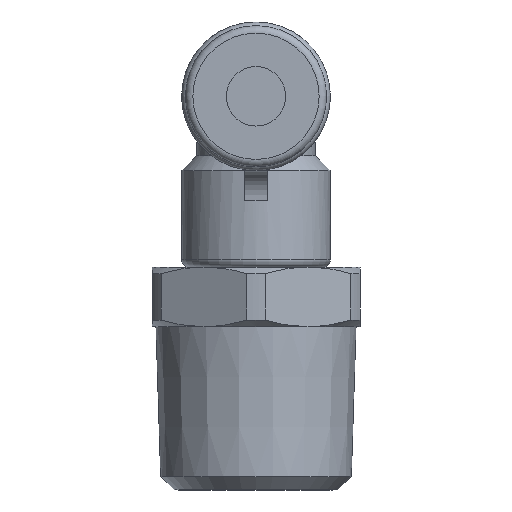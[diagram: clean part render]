
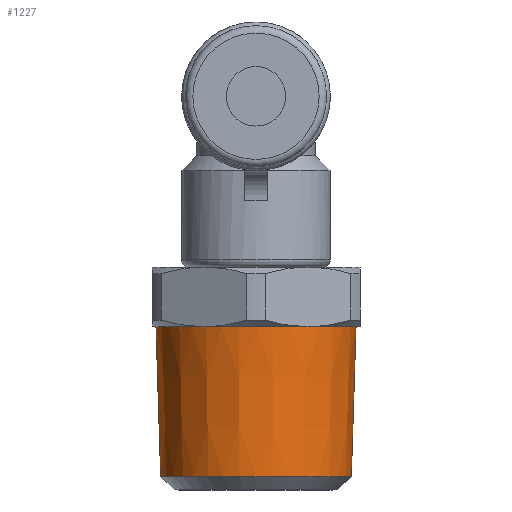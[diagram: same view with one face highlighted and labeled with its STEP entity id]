
A CAD part, left-side view. The second image highlights one B-rep face of the part: STEP entity #1227.
In plain terms, the highlighted conical face has half-angle 1.79 degrees and reference radius 6.579 mm.
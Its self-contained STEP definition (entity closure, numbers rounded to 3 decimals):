
#54=FACE_BOUND($,#354,.T.);
#258=FACE_OUTER_BOUND($,#353,.T.);
#353=EDGE_LOOP($,(#977));
#354=EDGE_LOOP($,(#978));
#450=CIRCLE($,#1348,6.419);
#455=CIRCLE($,#1362,6.735);
#587=VERTEX_POINT($,#2097);
#597=VERTEX_POINT($,#2156);
#726=EDGE_CURVE($,#587,#587,#450,.T.);
#741=EDGE_CURVE($,#597,#597,#455,.F.);
#977=ORIENTED_EDGE($,*,*,#741,.F.);
#978=ORIENTED_EDGE($,*,*,#726,.F.);
#1176=CONICAL_SURFACE($,#1361,6.579,1.79);
#1227=ADVANCED_FACE($,(#258,#54),#1176,.T.);
#1348=AXIS2_PLACEMENT_3D($,#2098,#1620,#1621);
#1361=AXIS2_PLACEMENT_3D($,#2155,#1648,#1649);
#1362=AXIS2_PLACEMENT_3D($,#2157,#1650,#1651);
#1620=DIRECTION('center_axis',(0.,0.,
-1.));
#1621=DIRECTION('ref_axis',(1.,0.,0.));
#1648=DIRECTION('center_axis',(0.,0.,
1.));
#1649=DIRECTION('ref_axis',(1.,0.,0.));
#1650=DIRECTION('center_axis',(0.,0.,
-1.));
#1651=DIRECTION('ref_axis',(1.,0.,0.));
#2097=CARTESIAN_POINT('',(0.,6.419,-25.6));
#2098=CARTESIAN_POINT('Origin',(0.,0.,
-25.6));
#2155=CARTESIAN_POINT('Origin',(0.,0.,
-20.5));
#2156=CARTESIAN_POINT('',(0.,6.735,-15.5));
#2157=CARTESIAN_POINT('Origin',(0.,0.,
-15.5));
